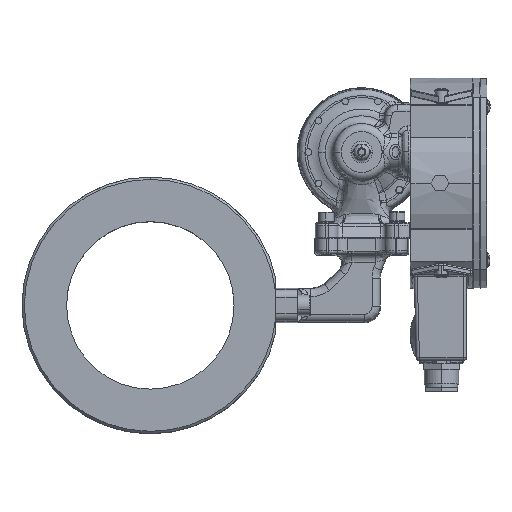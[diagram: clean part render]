
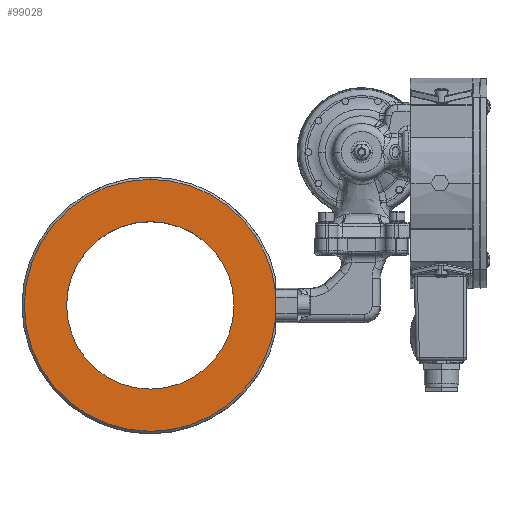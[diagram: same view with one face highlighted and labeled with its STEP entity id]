
A CAD part, top view. The second image highlights one B-rep face of the part: STEP entity #99028.
In plain terms, the highlighted planar face has unit normal (0, 0, 1).
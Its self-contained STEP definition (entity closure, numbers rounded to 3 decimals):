
#1429 = EDGE_CURVE ( 'NONE', #100604, #40213, #50324, .T. ) ;
#2786 = CARTESIAN_POINT ( 'NONE',  ( -127.895, -67.693, 57.468 ) ) ;
#4507 = EDGE_LOOP ( 'NONE', ( #17675, #19286, #20109, #22382 ) ) ;
#4854 = CARTESIAN_POINT ( 'NONE',  ( -135.19, 12.807, 57.468 ) ) ;
#5606 = DIRECTION ( 'NONE',  ( 0., 1., 0. ) ) ;
#5926 = EDGE_CURVE ( 'NONE', #63242, #38883, #50604, .T. ) ;
#7808 = EDGE_CURVE ( 'NONE', #93191, #24349, #15614, .T. ) ;
#8203 = AXIS2_PLACEMENT_3D ( 'NONE', #21179, #21105, #20847 ) ;
#8729 = CARTESIAN_POINT ( 'NONE',  ( -55.19, -67.693, 57.468 ) ) ;
#12065 = DIRECTION ( 'NONE',  ( 0., -1., 0. ) ) ;
#12989 = CARTESIAN_POINT ( 'NONE',  ( -135.19, -67.693, 57.468 ) ) ;
#15388 = ORIENTED_EDGE ( 'NONE', *, *, #1429, .T. ) ;
#15614 = CIRCLE ( 'NONE', #8203, 80.5 ) ;
#16884 = ORIENTED_EDGE ( 'NONE', *, *, #93784, .T. ) ;
#17675 = ORIENTED_EDGE ( 'NONE', *, *, #69780, .F. ) ;
#18285 = CARTESIAN_POINT ( 'NONE',  ( -55.19, -76.652, 57.468 ) ) ;
#19237 = CARTESIAN_POINT ( 'NONE',  ( -188.69, -67.693, 57.468 ) ) ;
#19286 = ORIENTED_EDGE ( 'NONE', *, *, #5926, .F. ) ;
#20109 = ORIENTED_EDGE ( 'NONE', *, *, #58693, .F. ) ;
#20847 = DIRECTION ( 'NONE',  ( 0., 1., 0. ) ) ;
#20990 = DIRECTION ( 'NONE',  ( 0., 1., 0. ) ) ;
#21105 = DIRECTION ( 'NONE',  ( 0., 0., -1. ) ) ;
#21179 = CARTESIAN_POINT ( 'NONE',  ( -135.19, -67.693, 57.468 ) ) ;
#22382 = ORIENTED_EDGE ( 'NONE', *, *, #7808, .F. ) ;
#24349 = VERTEX_POINT ( 'NONE', #4854 ) ;
#29469 = VECTOR ( 'NONE', #12065, 1000. ) ;
#32594 = AXIS2_PLACEMENT_3D ( 'NONE', #56895, #56549, #56192 ) ;
#32767 = FACE_OUTER_BOUND ( 'NONE', #4507, .T. ) ;
#34891 = DIRECTION ( 'NONE',  ( 0., 0., -1. ) ) ;
#35286 = FACE_BOUND ( 'NONE', #97830, .T. ) ;
#38883 = VERTEX_POINT ( 'NONE', #18285 ) ;
#40213 = VERTEX_POINT ( 'NONE', #69421 ) ;
#47046 = AXIS2_PLACEMENT_3D ( 'NONE', #99649, #53237, #5606 ) ;
#48919 = CARTESIAN_POINT ( 'NONE',  ( -135.19, -148.193, 57.468 ) ) ;
#50324 = CIRCLE ( 'NONE', #32594, 53.5 ) ;
#50387 = DIRECTION ( 'NONE',  ( 0., 0., 1. ) ) ;
#50604 = LINE ( 'NONE', #8729, #29469 ) ;
#53237 = DIRECTION ( 'NONE',  ( 0., 0., -1. ) ) ;
#55711 = CIRCLE ( 'NONE', #75787, 53.5 ) ;
#56192 = DIRECTION ( 'NONE',  ( -1., 0., 0. ) ) ;
#56549 = DIRECTION ( 'NONE',  ( 0., 0., -1. ) ) ;
#56895 = CARTESIAN_POINT ( 'NONE',  ( -135.19, -67.693, 57.468 ) ) ;
#58693 = EDGE_CURVE ( 'NONE', #24349, #63242, #62524, .T. ) ;
#62524 = CIRCLE ( 'NONE', #101172, 80.5 ) ;
#63242 = VERTEX_POINT ( 'NONE', #88652 ) ;
#66360 = PLANE ( 'NONE',  #75973 ) ;
#68563 = DIRECTION ( 'NONE',  ( 0., 0., -1. ) ) ;
#69421 = CARTESIAN_POINT ( 'NONE',  ( -81.69, -67.693, 57.468 ) ) ;
#69780 = EDGE_CURVE ( 'NONE', #38883, #93191, #95181, .T. ) ;
#74305 = DIRECTION ( 'NONE',  ( 1., 0., 0. ) ) ;
#75787 = AXIS2_PLACEMENT_3D ( 'NONE', #82146, #34891, #89751 ) ;
#75973 = AXIS2_PLACEMENT_3D ( 'NONE', #2786, #50387, #74305 ) ;
#82146 = CARTESIAN_POINT ( 'NONE',  ( -135.19, -67.693, 57.468 ) ) ;
#88652 = CARTESIAN_POINT ( 'NONE',  ( -55.19, -58.735, 57.468 ) ) ;
#89751 = DIRECTION ( 'NONE',  ( -1., 0., 0. ) ) ;
#93191 = VERTEX_POINT ( 'NONE', #48919 ) ;
#93784 = EDGE_CURVE ( 'NONE', #40213, #100604, #55711, .T. ) ;
#95181 = CIRCLE ( 'NONE', #47046, 80.5 ) ;
#97830 = EDGE_LOOP ( 'NONE', ( #15388, #16884 ) ) ;
#99028 = ADVANCED_FACE ( 'NONE', ( #35286, #32767 ), #66360, .T. ) ;
#99649 = CARTESIAN_POINT ( 'NONE',  ( -135.19, -67.693, 57.468 ) ) ;
#100604 = VERTEX_POINT ( 'NONE', #19237 ) ;
#101172 = AXIS2_PLACEMENT_3D ( 'NONE', #12989, #68563, #20990 ) ;
